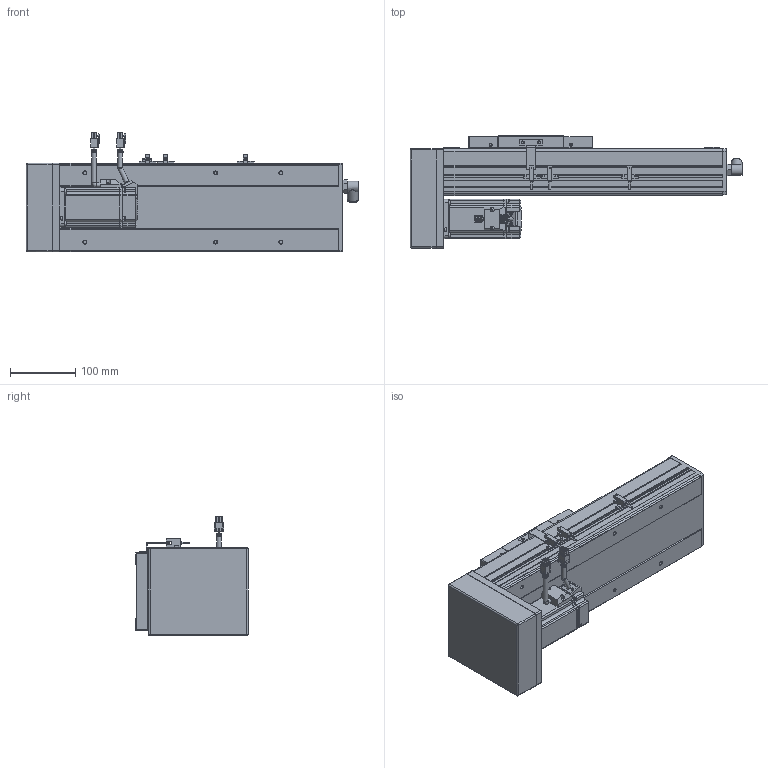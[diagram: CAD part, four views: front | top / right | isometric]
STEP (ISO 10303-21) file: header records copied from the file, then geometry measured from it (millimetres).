
FILE_DESCRIPTION(/* description */ ('STEP AP214'),/* implementation_level */ '2;1');
FILE_NAME(/* name */ 'PSC140-L05-S150-BM-P40-C1-N(0)',/* time_stamp */ '2022-06-13T03:20:19+02:00',/* author */ ('License CC BY-ND 4.0'),/* organization */ ('CADENAS'),/* preprocessor_version */ 'ST-DEVELOPER v18.102',/* originating_system */ 'PARTsolutions',/* authorisation */ ' ');
FILE_SCHEMA (('AUTOMOTIVE_DESIGN {1 0 10303 214 3 1 1}'));
Length unit declared in the file: millimetre
Products named in the file (11): PSC140-L05-S150-BM-P40-C1-N(0); P40-s2; P40-c2; P40-s1; P40-c1; P40-p1; PSC140-BM-body2; PSC140-sensor; PSC140-BM-SLIDER; PSC140-S150-BM-P40-C1_BODY1; PSC140-L05-S150-BM-P40-C1-N(0)_dummy
Assembly tree (12 placements, depth 2):
  PSC140-L05-S150-BM-P40-C1-N(0)
    P40-s2
    P40-c2
    P40-s1
    P40-c1
    P40-p1
    PSC140-BM-body2
    PSC140-sensor  x3
    PSC140-BM-SLIDER
    PSC140-S150-BM-P40-C1_BODY1
    PSC140-L05-S150-BM-P40-C1-N(0)_dummy
Bounding box: 508 x 171.5 x 182.48 mm (x, y, z)
Volume: 5937298.2 mm3; surface area: 412942.5 mm2
Topology: 11 solids, 11 shells, 1213 faces, 3149 edges, 2085 vertices
Faces by surface type: plane 852, cylinder 308, cone 34, torus 19
Full cylindrical faces by diameter (mm): 1 x8, 2.6 x10, 2.8 x3, 3.3 x8, 4.5 x12, 4.6 x3, 4.917 x10, 5 x4, 5.5 x8, 6 x10, 7 x10, 9 x2, 10 x1, 11 x1, 12 x1, 13.74 x1, 14 x1, 16.4 x2, 16.5 x1, 36 x1, 50 x2
Entity records: 33726 total; most frequent: CARTESIAN_POINT 5899, DIRECTION 5659, ORIENTED_EDGE 5498, EDGE_CURVE 2749, LINE 2097, VECTOR 2097, VERTEX_POINT 1906, AXIS2_PLACEMENT_3D 1781
